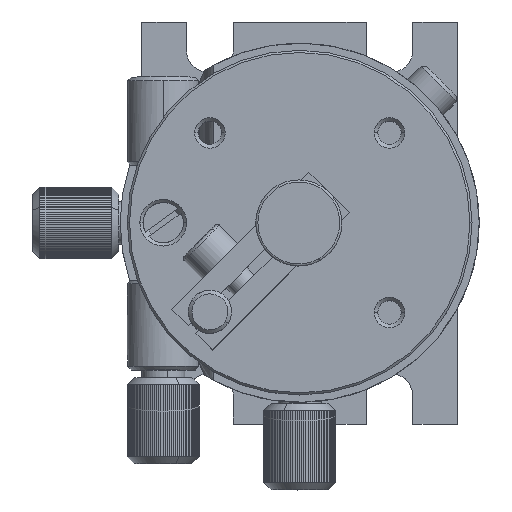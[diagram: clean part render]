
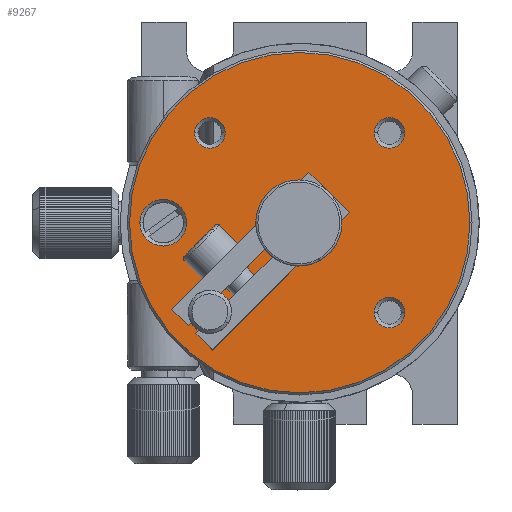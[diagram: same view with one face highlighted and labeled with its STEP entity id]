
A CAD part, top view. The second image highlights one B-rep face of the part: STEP entity #9267.
In plain terms, the highlighted planar face has unit normal (0, 0, 1).
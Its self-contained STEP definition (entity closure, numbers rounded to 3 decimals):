
#6645=CARTESIAN_POINT('',(-16.549,11.296,39.));
#6646=VERTEX_POINT('',#6645);
#6655=CARTESIAN_POINT('',(-11.508,8.042,39.));
#6656=VERTEX_POINT('',#6655);
#6657=CARTESIAN_POINT('',(-14.029,9.669,39.));
#6658=DIRECTION('',(0.,0.,-1.0));
#6659=DIRECTION('',(-0.84,0.542,0.));
#6660=AXIS2_PLACEMENT_3D('',#6657,#6658,#6659);
#6661=CIRCLE('',#6660,3.0);
#6662=EDGE_CURVE('',#6656,#6646,#6661,.T.);
#6831=CARTESIAN_POINT('',(22.171,22.169,39.));
#6832=VERTEX_POINT('',#6831);
#6839=CARTESIAN_POINT('',(-25.229,22.169,39.));
#6840=VERTEX_POINT('',#6839);
#6841=CARTESIAN_POINT('',(-1.529,22.169,39.));
#6842=DIRECTION('',(0.0,0.0,-1.0));
#6843=DIRECTION('',(1.0,0.0,0.0));
#6844=AXIS2_PLACEMENT_3D('',#6841,#6842,#6843);
#6845=CIRCLE('',#6844,23.7);
#6846=EDGE_CURVE('',#6832,#6840,#6845,.T.);
#6863=CARTESIAN_POINT('',(8.85,9.669,39.));
#6864=VERTEX_POINT('',#6863);
#6873=CARTESIAN_POINT('',(13.092,9.669,39.));
#6874=VERTEX_POINT('',#6873);
#6875=CARTESIAN_POINT('',(10.971,9.669,39.));
#6876=DIRECTION('',(0.0,0.0,1.0));
#6877=DIRECTION('',(-1.0,0.0,0.0));
#6878=AXIS2_PLACEMENT_3D('',#6875,#6876,#6877);
#6879=CIRCLE('',#6878,2.121);
#6880=EDGE_CURVE('',#6864,#6874,#6879,.T.);
#6964=CARTESIAN_POINT('',(8.85,34.669,39.));
#6965=VERTEX_POINT('',#6964);
#6974=CARTESIAN_POINT('',(13.092,34.669,39.));
#6975=VERTEX_POINT('',#6974);
#6976=CARTESIAN_POINT('',(10.971,34.669,39.));
#6977=DIRECTION('',(0.0,0.0,1.0));
#6978=DIRECTION('',(-1.0,0.0,0.0));
#6979=AXIS2_PLACEMENT_3D('',#6976,#6977,#6978);
#6980=CIRCLE('',#6979,2.121);
#6981=EDGE_CURVE('',#6965,#6975,#6980,.T.);
#7065=CARTESIAN_POINT('',(-16.15,34.669,39.));
#7066=VERTEX_POINT('',#7065);
#7075=CARTESIAN_POINT('',(-11.908,34.669,39.));
#7076=VERTEX_POINT('',#7075);
#7077=CARTESIAN_POINT('',(-14.029,34.669,39.));
#7078=DIRECTION('',(0.0,0.0,1.0));
#7079=DIRECTION('',(-1.0,0.0,0.0));
#7080=AXIS2_PLACEMENT_3D('',#7077,#7078,#7079);
#7081=CIRCLE('',#7080,2.121);
#7082=EDGE_CURVE('',#7066,#7076,#7081,.T.);
#7249=CARTESIAN_POINT('',(1.721,22.169,39.));
#7250=VERTEX_POINT('',#7249);
#7259=CARTESIAN_POINT('',(-4.779,22.169,39.));
#7260=VERTEX_POINT('',#7259);
#7261=CARTESIAN_POINT('',(-1.529,22.169,39.));
#7262=DIRECTION('',(0.0,0.0,-1.0));
#7263=DIRECTION('',(1.0,0.0,0.0));
#7264=AXIS2_PLACEMENT_3D('',#7261,#7262,#7263);
#7265=CIRCLE('',#7264,3.25);
#7266=EDGE_CURVE('',#7260,#7250,#7265,.T.);
#7360=CARTESIAN_POINT('',(-17.279,22.169,39.));
#7361=VERTEX_POINT('',#7360);
#7370=CARTESIAN_POINT('',(-23.779,22.169,39.));
#7371=VERTEX_POINT('',#7370);
#7372=CARTESIAN_POINT('',(-20.529,22.169,39.));
#7373=DIRECTION('',(0.0,0.0,-1.0));
#7374=DIRECTION('',(1.0,0.0,0.0));
#7375=AXIS2_PLACEMENT_3D('',#7372,#7373,#7374);
#7376=CIRCLE('',#7375,3.25);
#7377=EDGE_CURVE('',#7371,#7361,#7376,.T.);
#8976=CARTESIAN_POINT('',(-20.529,22.169,39.));
#8977=DIRECTION('',(0.0,0.0,-1.0));
#8978=DIRECTION('',(1.0,0.0,0.0));
#8979=AXIS2_PLACEMENT_3D('',#8976,#8977,#8978);
#8980=CIRCLE('',#8979,3.25);
#8981=EDGE_CURVE('',#7361,#7371,#8980,.T.);
#9019=CARTESIAN_POINT('',(-1.529,22.169,39.));
#9020=DIRECTION('',(0.0,0.0,-1.0));
#9021=DIRECTION('',(1.0,0.0,0.0));
#9022=AXIS2_PLACEMENT_3D('',#9019,#9020,#9021);
#9023=CIRCLE('',#9022,3.25);
#9024=EDGE_CURVE('',#7250,#7260,#9023,.T.);
#9110=CARTESIAN_POINT('',(-14.029,34.669,39.));
#9111=DIRECTION('',(0.0,0.0,1.0));
#9112=DIRECTION('',(-1.0,0.0,0.0));
#9113=AXIS2_PLACEMENT_3D('',#9110,#9111,#9112);
#9114=CIRCLE('',#9113,2.121);
#9115=EDGE_CURVE('',#7076,#7066,#9114,.T.);
#9161=CARTESIAN_POINT('',(10.971,34.669,39.));
#9162=DIRECTION('',(0.0,0.0,1.0));
#9163=DIRECTION('',(-1.0,0.0,0.0));
#9164=AXIS2_PLACEMENT_3D('',#9161,#9162,#9163);
#9165=CIRCLE('',#9164,2.121);
#9166=EDGE_CURVE('',#6975,#6965,#9165,.T.);
#9212=CARTESIAN_POINT('',(10.971,9.669,39.));
#9213=DIRECTION('',(0.0,0.0,1.0));
#9214=DIRECTION('',(-1.0,0.0,0.0));
#9215=AXIS2_PLACEMENT_3D('',#9212,#9213,#9214);
#9216=CIRCLE('',#9215,2.121);
#9217=EDGE_CURVE('',#6874,#6864,#9216,.T.);
#9222=CARTESIAN_POINT('',(-1.529,22.169,39.));
#9223=DIRECTION('',(0.0,0.0,1.0));
#9224=DIRECTION('',(0.0,-1.0,0.0));
#9225=AXIS2_PLACEMENT_3D('',#9222,#9223,#9224);
#9226=PLANE('',#9225);
#9227=CARTESIAN_POINT('',(-1.529,22.169,39.));
#9228=DIRECTION('',(0.0,0.0,-1.0));
#9229=DIRECTION('',(1.0,0.0,0.0));
#9230=AXIS2_PLACEMENT_3D('',#9227,#9228,#9229);
#9231=CIRCLE('',#9230,23.7);
#9232=EDGE_CURVE('',#6840,#6832,#9231,.T.);
#9233=ORIENTED_EDGE('',*,*,#9232,.F.);
#9234=ORIENTED_EDGE('',*,*,#6846,.F.);
#9235=EDGE_LOOP('',(#9233,#9234));
#9236=FACE_OUTER_BOUND('',#9235,.T.);
#9237=CARTESIAN_POINT('',(-14.029,9.669,39.));
#9238=DIRECTION('',(0.,0.,-1.0));
#9239=DIRECTION('',(-0.84,0.542,0.));
#9240=AXIS2_PLACEMENT_3D('',#9237,#9238,#9239);
#9241=CIRCLE('',#9240,3.0);
#9242=EDGE_CURVE('',#6646,#6656,#9241,.T.);
#9243=ORIENTED_EDGE('',*,*,#9242,.T.);
#9244=ORIENTED_EDGE('',*,*,#6662,.T.);
#9245=EDGE_LOOP('',(#9243,#9244));
#9246=FACE_BOUND('',#9245,.T.);
#9247=ORIENTED_EDGE('',*,*,#9217,.F.);
#9248=ORIENTED_EDGE('',*,*,#6880,.F.);
#9249=EDGE_LOOP('',(#9247,#9248));
#9250=FACE_BOUND('',#9249,.T.);
#9251=ORIENTED_EDGE('',*,*,#9115,.F.);
#9252=ORIENTED_EDGE('',*,*,#7082,.F.);
#9253=EDGE_LOOP('',(#9251,#9252));
#9254=FACE_BOUND('',#9253,.T.);
#9255=ORIENTED_EDGE('',*,*,#8981,.T.);
#9256=ORIENTED_EDGE('',*,*,#7377,.T.);
#9257=EDGE_LOOP('',(#9255,#9256));
#9258=FACE_BOUND('',#9257,.T.);
#9259=ORIENTED_EDGE('',*,*,#9024,.T.);
#9260=ORIENTED_EDGE('',*,*,#7266,.T.);
#9261=EDGE_LOOP('',(#9259,#9260));
#9262=FACE_BOUND('',#9261,.T.);
#9263=ORIENTED_EDGE('',*,*,#9166,.F.);
#9264=ORIENTED_EDGE('',*,*,#6981,.F.);
#9265=EDGE_LOOP('',(#9263,#9264));
#9266=FACE_BOUND('',#9265,.T.);
#9267=ADVANCED_FACE('',(#9236,#9246,#9250,#9254,#9258,#9262,#9266),#9226,.T.);
